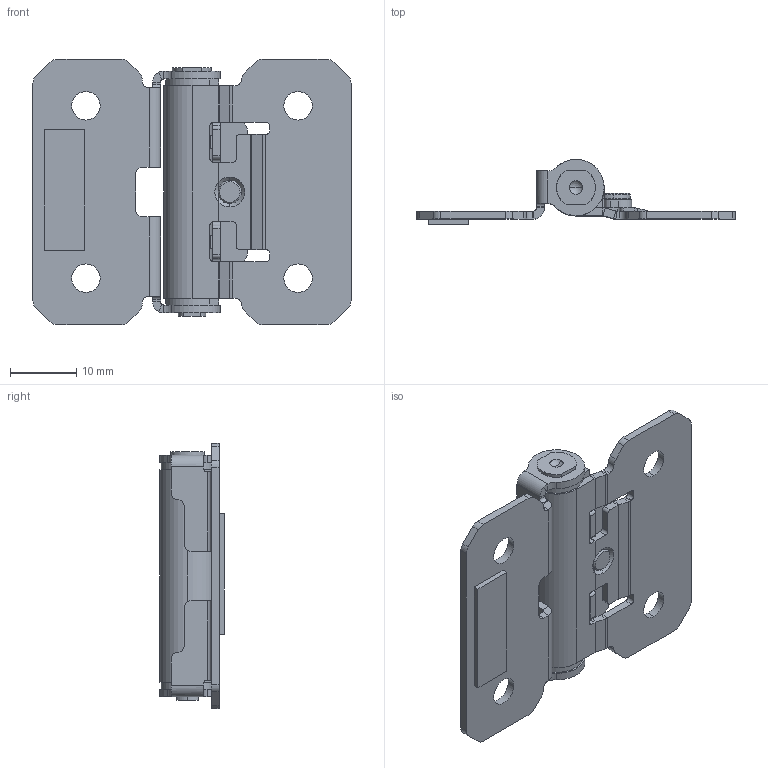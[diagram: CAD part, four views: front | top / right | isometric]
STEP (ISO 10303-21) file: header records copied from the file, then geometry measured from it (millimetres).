
FILE_DESCRIPTION (( 'STEP AP214' ), '1' );
FILE_NAME ('CL-102-2.STEP', '2022-04-30T03:12:00', ( 'Owner' ), ( '' ), 'SwSTEP 2.0', 'SolidWorks 2019', '' );
FILE_SCHEMA (( 'AUTOMOTIVE_DESIGN' ));
Length unit declared in the file: inch
Products named in the file (1): CL-102-2
Bounding box: 48 x 9.8 x 40 mm (x, y, z)
Volume: 4066.5 mm3; surface area: 7387.3 mm2
Topology: 7 solids, 7 shells, 384 faces, 1012 edges, 640 vertices
Faces by surface type: plane 202, cylinder 161, cone 13, sphere 4, bspline 4
Entity records: 17090 total; most frequent: CARTESIAN_POINT 2409, DIRECTION 2048, ORIENTED_EDGE 2012, EDGE_CURVE 1006, AXIS2_PLACEMENT_3D 718, VERTEX_POINT 638, LINE 612, VECTOR 612
